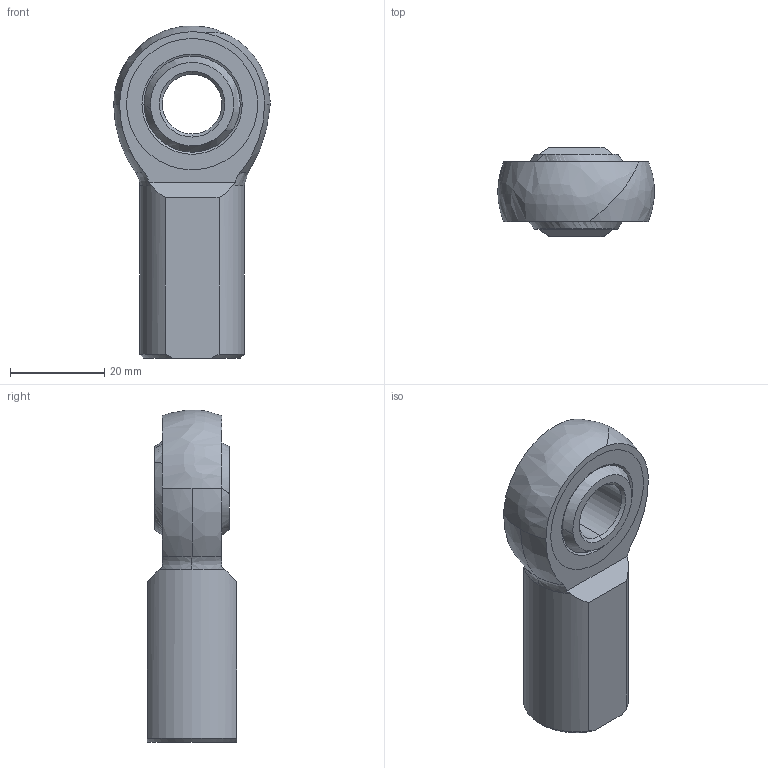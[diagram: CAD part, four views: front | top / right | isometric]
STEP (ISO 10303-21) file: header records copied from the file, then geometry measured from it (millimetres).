
FILE_DESCRIPTION (( 'STEP AP214' ), '1' );
FILE_NAME ('RodEnd_BECK_11^150.STEP', '2025-02-27T17:03:08', ( '' ), ( '' ), 'SwSTEP 2.0', 'SolidWorks 2022', '' );
FILE_SCHEMA (( 'AUTOMOTIVE_DESIGN' ));
Length unit declared in the file: inch
Products named in the file (1): RodEnd_BECK_11^150
Bounding box: 33.27 x 19.05 x 70.6 mm (x, y, z)
Volume: 19191.6 mm3; surface area: 11592.8 mm2
Topology: 3 solids, 3 shells, 69 faces, 182 edges, 111 vertices
Faces by surface type: cone 22, bspline 18, cylinder 17, plane 12
Entity records: 3747 total; most frequent: CARTESIAN_POINT 1168, ORIENTED_EDGE 352, DIRECTION 333, EDGE_CURVE 176, AXIS2_PLACEMENT_3D 143, VERTEX_POINT 111, CIRCLE 91, EDGE_LOOP 77
